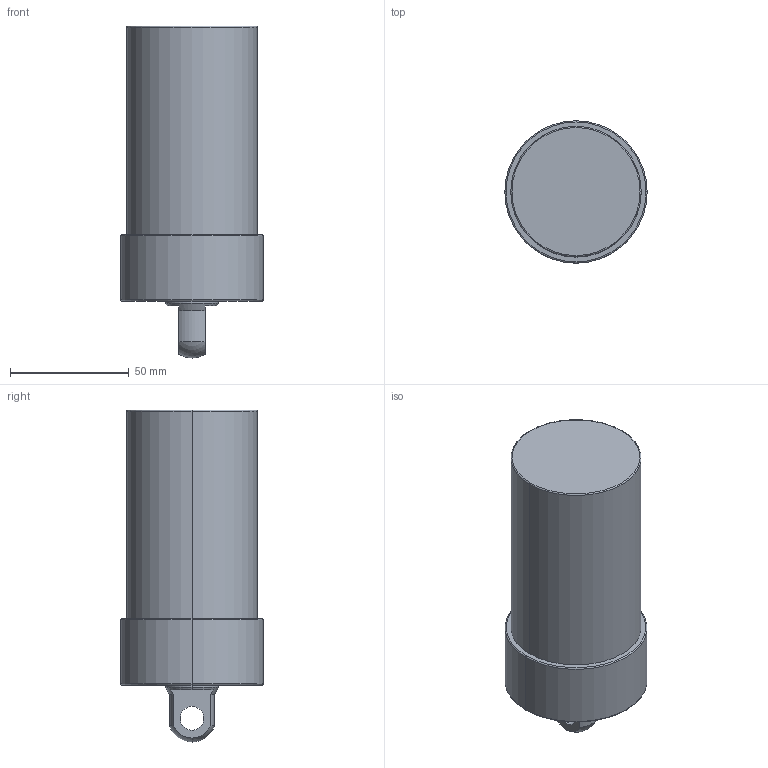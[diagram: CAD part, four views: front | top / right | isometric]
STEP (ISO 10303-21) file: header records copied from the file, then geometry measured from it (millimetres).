
FILE_DESCRIPTION (( 'STEP AP203' ), '1' );
FILE_NAME ('CLLU055-CP-075.STEP', '2017-05-12T10:51:38', ( '' ), ( '' ), 'SwSTEP 2.0', 'SolidWorks 2015', '' );
FILE_SCHEMA (( 'CONFIG_CONTROL_DESIGN' ));
Length unit declared in the file: millimetre
Products named in the file (1): CLLU055-CP-075
Bounding box: 60 x 60 x 140 mm (x, y, z)
Volume: 290470.4 mm3; surface area: 28459 mm2
Topology: 1 solids, 1 shells, 57 faces, 130 edges, 75 vertices
Faces by surface type: cylinder 22, cone 18, plane 9, torus 6, sphere 2
Entity records: 1643 total; most frequent: DIRECTION 308, CARTESIAN_POINT 267, ORIENTED_EDGE 244, AXIS2_PLACEMENT_3D 132, EDGE_CURVE 122, VERTEX_POINT 75, CIRCLE 74, EDGE_LOOP 67
